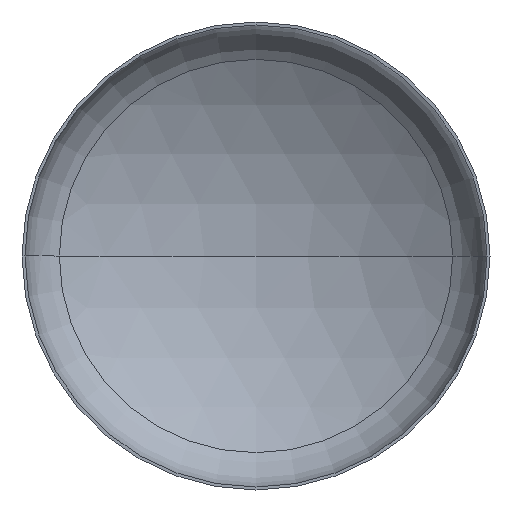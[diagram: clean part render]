
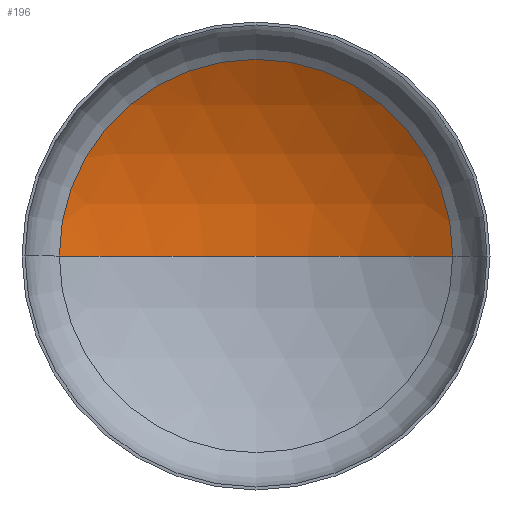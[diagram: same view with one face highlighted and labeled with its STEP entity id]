
A CAD part, front view. The second image highlights one B-rep face of the part: STEP entity #196.
In plain terms, the highlighted spherical face has radius 880 mm.
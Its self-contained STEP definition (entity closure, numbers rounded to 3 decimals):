
#4 = VERTEX_POINT ( 'NONE', #203 ) ;
#19 = AXIS2_PLACEMENT_3D ( 'NONE', #231, #406, #213 ) ;
#33 = AXIS2_PLACEMENT_3D ( 'NONE', #217, #253, #259 ) ;
#34 = CIRCLE ( 'NONE', #19, 462.31 ) ;
#38 = AXIS2_PLACEMENT_3D ( 'NONE', #43, #278, #379 ) ;
#43 = CARTESIAN_POINT ( 'NONE',  ( 0., -579.128, 0. ) ) ;
#56 = CIRCLE ( 'NONE', #33, 880. ) ;
#63 = ORIENTED_EDGE ( 'NONE', *, *, #365, .T. ) ;
#68 = VERTEX_POINT ( 'NONE', #294 ) ;
#71 = ORIENTED_EDGE ( 'NONE', *, *, #352, .F. ) ;
#79 = EDGE_LOOP ( 'NONE', ( #71, #104, #63 ) ) ;
#81 = AXIS2_PLACEMENT_3D ( 'NONE', #258, #252, #276 ) ;
#104 = ORIENTED_EDGE ( 'NONE', *, *, #345, .T. ) ;
#107 = VERTEX_POINT ( 'NONE', #320 ) ;
#196 = ADVANCED_FACE ( 'NONE', ( #397 ), #207, .F. ) ;
#203 = CARTESIAN_POINT ( 'NONE',  ( 0., 300.872, 0. ) ) ;
#207 = SPHERICAL_SURFACE ( 'NONE', #81, 880. ) ;
#213 = DIRECTION ( 'NONE',  ( 1., 0., 0. ) ) ;
#217 = CARTESIAN_POINT ( 'NONE',  ( 0., -579.128, 0. ) ) ;
#231 = CARTESIAN_POINT ( 'NONE',  ( 0., 169.65, 0. ) ) ;
#252 = DIRECTION ( 'NONE',  ( 0., 0., -1. ) ) ;
#253 = DIRECTION ( 'NONE',  ( 0., 0., 1. ) ) ;
#258 = CARTESIAN_POINT ( 'NONE',  ( 0., -579.128, 0. ) ) ;
#259 = DIRECTION ( 'NONE',  ( 1., 0., 0. ) ) ;
#276 = DIRECTION ( 'NONE',  ( -1., 0., 0. ) ) ;
#278 = DIRECTION ( 'NONE',  ( 0., 0., -1. ) ) ;
#294 = CARTESIAN_POINT ( 'NONE',  ( -462.31, 169.65, 0. ) ) ;
#320 = CARTESIAN_POINT ( 'NONE',  ( 462.31, 169.65, 0. ) ) ;
#345 = EDGE_CURVE ( 'NONE', #4, #107, #369, .T. ) ;
#352 = EDGE_CURVE ( 'NONE', #4, #68, #56, .T. ) ;
#365 = EDGE_CURVE ( 'NONE', #107, #68, #34, .T. ) ;
#369 = CIRCLE ( 'NONE', #38, 880. ) ;
#379 = DIRECTION ( 'NONE',  ( -1., 0., 0. ) ) ;
#397 = FACE_OUTER_BOUND ( 'NONE', #79, .T. ) ;
#406 = DIRECTION ( 'NONE',  ( 0., -1., 0. ) ) ;
